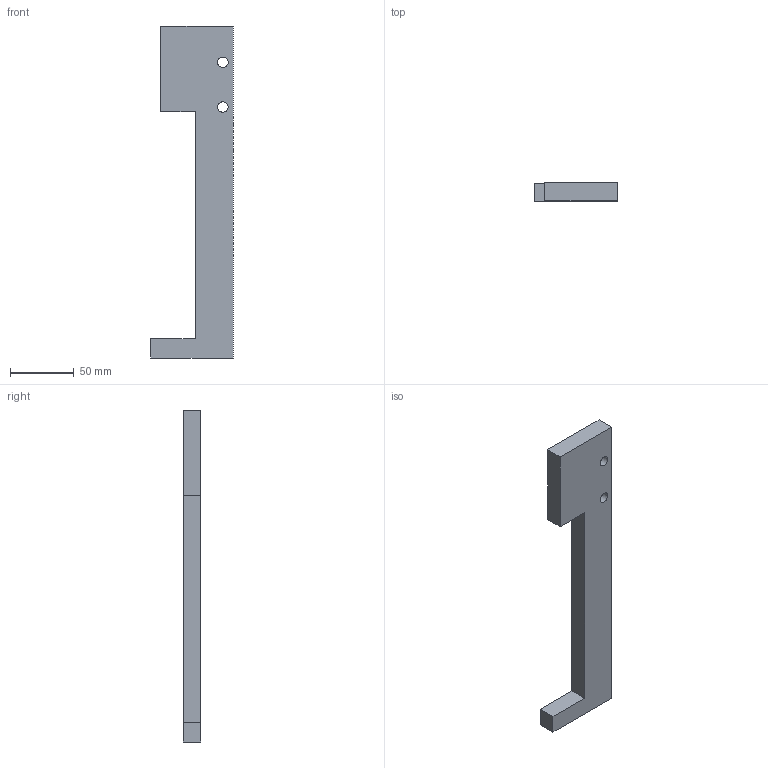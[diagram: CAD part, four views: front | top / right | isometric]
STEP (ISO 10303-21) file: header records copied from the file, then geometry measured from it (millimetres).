
FILE_DESCRIPTION(('Open CASCADE Model'),'2;1');
FILE_NAME('Open CASCADE Shape Model','2026-10-20T13:19:35',('Author'),( 'Open CASCADE'),'Open CASCADE STEP processor 7.9','Open CASCADE 7.9' ,'Unknown');
FILE_SCHEMA(('AUTOMOTIVE_DESIGN { 1 0 10303 214 1 1 1 1 }'));
Length unit declared in the file: millimetre
Products named in the file (1): Open CASCADE STEP translator 7.9 55
Bounding box: 65 x 14 x 260.12 mm (x, y, z)
Volume: 140446 mm3; surface area: 30644.3 mm2
Topology: 1 solids, 1 shells, 12 faces, 30 edges, 20 vertices
Faces by surface type: plane 10, cylinder 2
Full cylindrical faces by diameter (mm): 8.2 x2
Entity records: 778 total; most frequent: CARTESIAN_POINT 147, DIRECTION 116, LINE 82, VECTOR 82, ORIENTED_EDGE 60, PCURVE 60, DEFINITIONAL_REPRESENTATION 60, EDGE_CURVE 30
